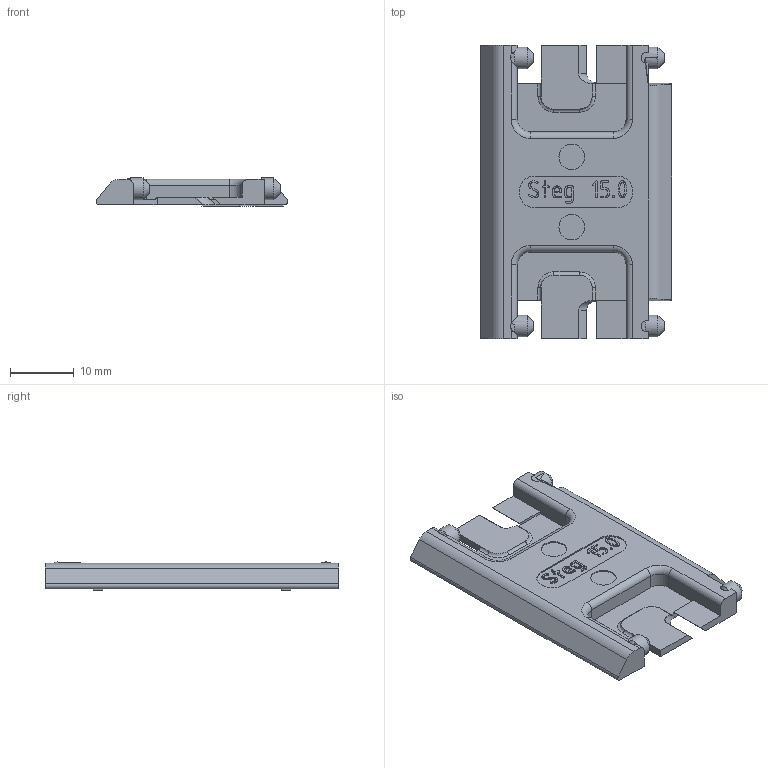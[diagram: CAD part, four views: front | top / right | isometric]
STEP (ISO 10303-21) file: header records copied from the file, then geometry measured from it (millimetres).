
FILE_DESCRIPTION((''),'2;1');
FILE_NAME('C:\Uebbing\PARAMETERKETTEN\KOLIBRI\Kol_40_062_2\Kol_40_062_2_Klappsteg.stp','2011-11-02T12:52:09',('Uebbing'),(''),'Autodesk Inventor 10','Autodesk Inventor 10','');
FILE_SCHEMA(('AUTOMOTIVE_DESIGN { 1 0 10303 214 1 1 1 1 }'));
Length unit declared in the file: millimetre
Products named in the file (1): Kol_40_062_2_Klappsteg
Bounding box: 30 x 46 x 4.4 mm (x, y, z)
Volume: 3563.2 mm3; surface area: 3256.5 mm2
Topology: 1 solids, 1 shells, 297 faces, 825 edges, 546 vertices
Faces by surface type: plane 126, bspline 111, cylinder 52, cone 4, torus 4
Full cylindrical faces by diameter (mm): 3.4 x4, 4 x2
Entity records: 10285 total; most frequent: CARTESIAN_POINT 3373, ORIENTED_EDGE 1622, DIRECTION 1089, EDGE_CURVE 811, VERTEX_POINT 542, VECTOR 467, LINE 467, EDGE_LOOP 323
